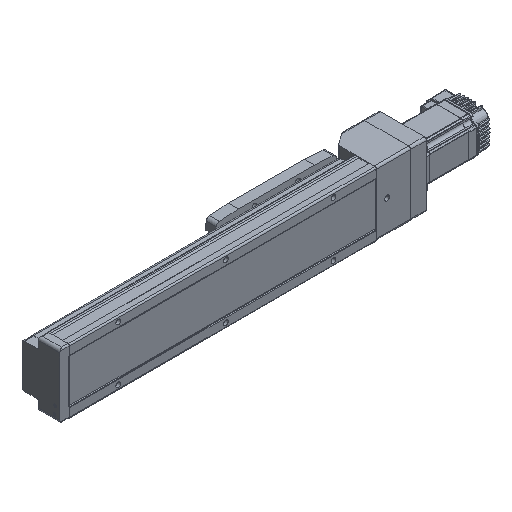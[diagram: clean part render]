
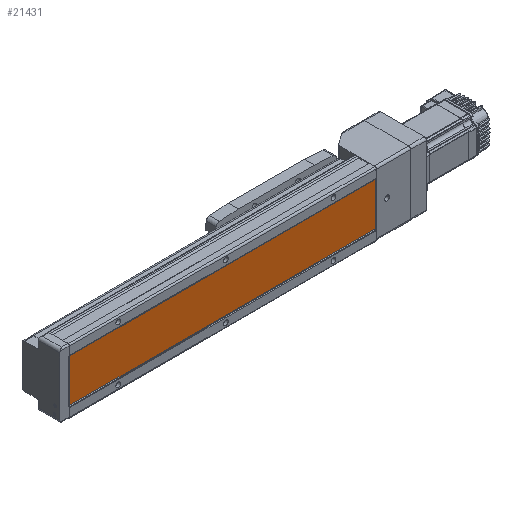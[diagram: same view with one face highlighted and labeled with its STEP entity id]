
A CAD part, isometric view. The second image highlights one B-rep face of the part: STEP entity #21431.
In plain terms, the highlighted planar face has unit normal (0, -1, 0).
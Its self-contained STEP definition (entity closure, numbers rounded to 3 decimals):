
#961 = VECTOR ( 'NONE', #18269, 1000. ) ;
#2638 = EDGE_CURVE ( 'NONE', #53625, #47385, #5472, .T. ) ;
#3276 = DIRECTION ( 'NONE',  ( 0., 0., -1. ) ) ;
#3805 = CARTESIAN_POINT ( 'NONE',  ( 29.843, 1., 428. ) ) ;
#3972 = CARTESIAN_POINT ( 'NONE',  ( -29.843, 1., 0. ) ) ;
#5193 = DIRECTION ( 'NONE',  ( 0., 0., -1. ) ) ;
#5472 = LINE ( 'NONE', #32351, #9549 ) ;
#5548 = LINE ( 'NONE', #50302, #961 ) ;
#7979 = EDGE_CURVE ( 'NONE', #47385, #45610, #47075, .T. ) ;
#9549 = VECTOR ( 'NONE', #5193, 1000. ) ;
#11568 = ORIENTED_EDGE ( 'NONE', *, *, #7979, .T. ) ;
#15691 = VECTOR ( 'NONE', #3276, 1000. ) ;
#15791 = EDGE_CURVE ( 'NONE', #53625, #39206, #5548, .T. ) ;
#18269 = DIRECTION ( 'NONE',  ( 1., 0., 0. ) ) ;
#21431 = ADVANCED_FACE ( 'NONE', ( #30976 ), #48555, .F. ) ;
#22283 = CARTESIAN_POINT ( 'NONE',  ( 29.843, 1., 0. ) ) ;
#25420 = DIRECTION ( 'NONE',  ( 1., 0., 0. ) ) ;
#27433 = ORIENTED_EDGE ( 'NONE', *, *, #30739, .F. ) ;
#30057 = CARTESIAN_POINT ( 'NONE',  ( -29.843, 1., 0. ) ) ;
#30739 = EDGE_CURVE ( 'NONE', #39206, #45610, #38783, .T. ) ;
#30976 = FACE_OUTER_BOUND ( 'NONE', #33750, .T. ) ;
#31260 = DIRECTION ( 'NONE',  ( 0., 1., 0. ) ) ;
#32351 = CARTESIAN_POINT ( 'NONE',  ( -29.843, 1., 1378. ) ) ;
#33750 = EDGE_LOOP ( 'NONE', ( #45286, #53018, #11568, #27433 ) ) ;
#38783 = LINE ( 'NONE', #42842, #15691 ) ;
#39206 = VERTEX_POINT ( 'NONE', #3805 ) ;
#40276 = CARTESIAN_POINT ( 'NONE',  ( -29.843, 1., 428. ) ) ;
#42842 = CARTESIAN_POINT ( 'NONE',  ( 29.843, 1., 1378. ) ) ;
#44518 = CARTESIAN_POINT ( 'NONE',  ( -29.843, 1., 1378. ) ) ;
#45286 = ORIENTED_EDGE ( 'NONE', *, *, #15791, .F. ) ;
#45610 = VERTEX_POINT ( 'NONE', #22283 ) ;
#47075 = LINE ( 'NONE', #30057, #52115 ) ;
#47385 = VERTEX_POINT ( 'NONE', #3972 ) ;
#48555 = PLANE ( 'NONE',  #53594 ) ;
#50302 = CARTESIAN_POINT ( 'NONE',  ( -29.843, 1., 428. ) ) ;
#52115 = VECTOR ( 'NONE', #25420, 1000. ) ;
#53018 = ORIENTED_EDGE ( 'NONE', *, *, #2638, .T. ) ;
#53190 = DIRECTION ( 'NONE',  ( 0., 0., 1. ) ) ;
#53594 = AXIS2_PLACEMENT_3D ( 'NONE', #44518, #31260, #53190 ) ;
#53625 = VERTEX_POINT ( 'NONE', #40276 ) ;
